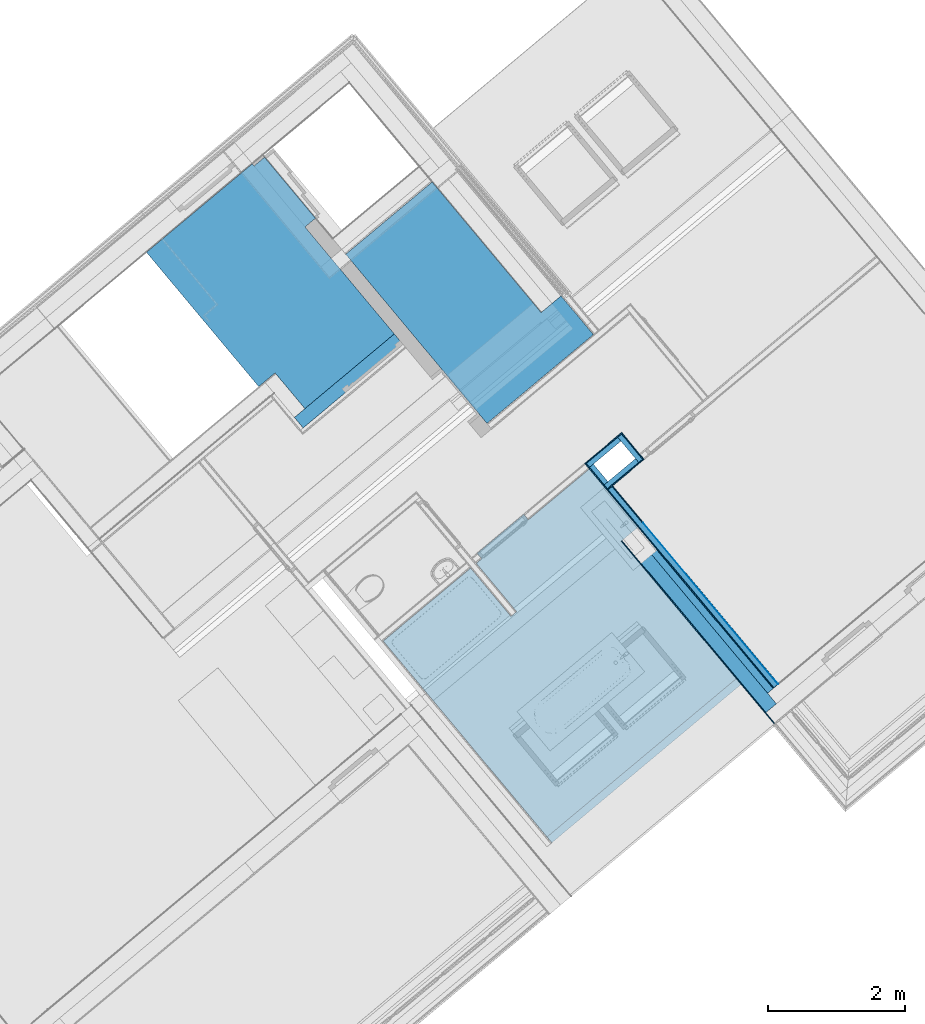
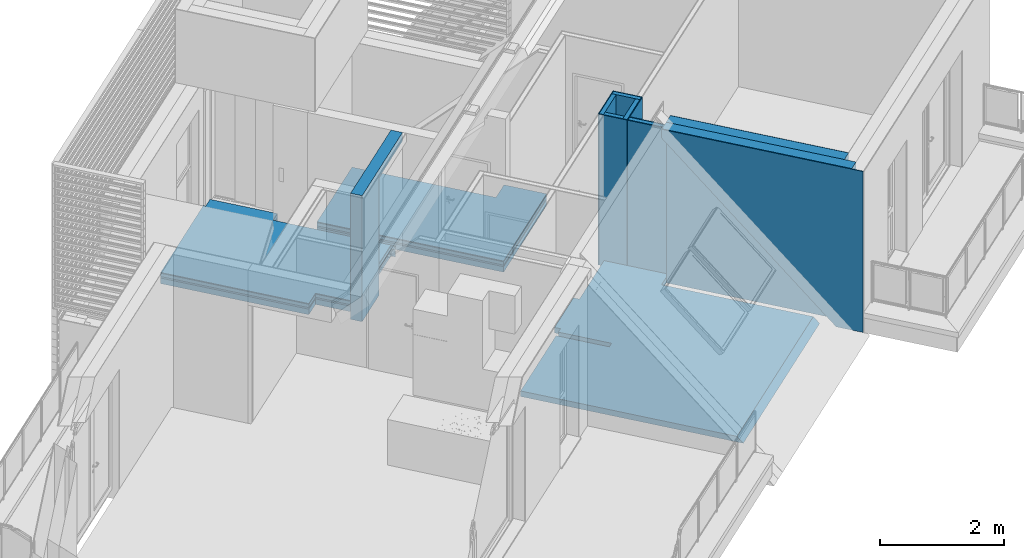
# One storey, part 25 of 47: 25 building element parts, 1 opening, 10 elements without a shape of their own.
"""IFC4 building model written with IfcOpenShell, lengths in metres."""

from ifc_helpers import new_model, entity, si_unit, converted_unit, derived_unit, direction, frame, origin_with_axes, place, context, subcontext, project, spatial, polygons, material, type_object, element, aggregate, save


model = new_model("IFC4")

# Units and contexts
model_context = context("Model", 3, precision=1e-05, world=origin_with_axes(), true_north=direction((0.0, 1.0)))
body_context = subcontext(model_context, "Body", "Model", "MODEL_VIEW")
ifc_project = project(units=[si_unit("LENGTHUNIT", "METRE"), si_unit("AREAUNIT", "SQUARE_METRE"), si_unit("VOLUMEUNIT", "CUBIC_METRE"), converted_unit("PLANEANGLEUNIT", "DEGREE", entity("IfcPlaneAngleMeasure", 0.0174532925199), si_unit("PLANEANGLEUNIT", "RADIAN"), dimensions=[0, 0, 0, 0, 0, 0, 0]), converted_unit("TIMEUNIT", "Year", entity("IfcTimeMeasure", 31556926.0), si_unit("TIMEUNIT", "SECOND"), dimensions=[0, 0, 1, 0, 0, 0, 0]), si_unit("MASSUNIT", "GRAM", prefix="KILO"), si_unit("THERMODYNAMICTEMPERATUREUNIT", "DEGREE_CELSIUS"), si_unit("LUMINOUSINTENSITYUNIT", "LUMEN"), si_unit("ENERGYUNIT", "JOULE", prefix="MEGA"), derived_unit("THERMALCONDUCTANCEUNIT", [(si_unit("POWERUNIT", "WATT"), 1), (si_unit("LENGTHUNIT", "METRE"), -1), (si_unit("THERMODYNAMICTEMPERATUREUNIT", "KELVIN"), -1)]), derived_unit("SPECIFICHEATCAPACITYUNIT", [(si_unit("ENERGYUNIT", "JOULE"), 1), (si_unit("MASSUNIT", "GRAM", prefix="KILO"), -1), (si_unit("THERMODYNAMICTEMPERATUREUNIT", "KELVIN"), -1)]), derived_unit("MASSDENSITYUNIT", [(si_unit("MASSUNIT", "GRAM", prefix="KILO"), 1), (si_unit("VOLUMEUNIT", "CUBIC_METRE"), -1)])], contexts=[model_context])

# Site, building, storey
site_placement = place(None, frame((-0.00153261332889, -0.00661245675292, 0.0), z_axis=(0.0, 0.0, 1.0), x_axis=(1.0, 0.0, 0.0)))
site = spatial("IfcSite", under=ifc_project, at=site_placement, Name="Site", CompositionType="ELEMENT")
building_placement = place(site_placement, origin_with_axes())
building = spatial("IfcBuilding", under=site, at=building_placement, Name="Building", CompositionType="ELEMENT")
storey_placement = place(building_placement, frame((0.0, 0.0, 8.66), z_axis=(0.0, 0.0, 1.0), x_axis=(1.0, 0.0, 0.0)))
storey = spatial("IfcBuildingStorey", under=building, at=storey_placement, Name="DG2", CompositionType="ELEMENT", Elevation=8.66)

# Wall, opening, building element part
wall_type_1 = type_object("IfcWallType", Name="LB 6,5 cm einfach Vorsatzschale + STB 265", PredefinedType="NOTDEFINED")
wall_1_placement = place(storey_placement, frame((2.2585224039, 23.4000388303, 0.0), z_axis=(0.0, 0.0, 1.0), x_axis=(-0.76736580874, -0.641209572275, 0.0)))
wall_1 = element("IfcWall", 1, at=wall_1_placement, inside=storey, type_object=wall_type_1, Name="Wand-003", PredefinedType="NOTDEFINED")
opening_placement = place(wall_1_placement, frame((0.54999999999, 0.0, 0.22), z_axis=(0.0, 0.0, 1.0), x_axis=(1.0, 0.0, 0.0)))
element("IfcOpeningElement", 2, at=opening_placement, cuts=wall_1, Name="Tür-001", context=body_context, identifier="Reference", shape_type="Tessellation", body=[
    polygons([(0.55, 0.125, 2.1), (-0.55, 0.125, 2.1), (-0.55, -0.968041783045, 2.1), (0.55, -0.968041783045, 2.1), (0.55, 1.23304178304, 2.1), (-0.55, 1.23304178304, 2.1), (-0.55, 0.125, -0.22), (-0.55, -0.968041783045, -0.22), (0.55, -0.968041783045, -0.22), (0.55, 0.125, -0.22), (0.55, 1.23304178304, -0.22), (-0.55, 1.23304178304, -0.22)], [[[1, 2, 3, 4]], [[2, 1, 5, 6]], [[2, 7, 8, 3]], [[3, 8, 9, 4]], [[10, 1, 4, 9]], [[1, 10, 11, 5]], [[5, 11, 12, 6]], [[7, 2, 6, 12]], [[7, 10, 9, 8]], [[10, 7, 12, 11]]], closed=True),
])
ifc_material_1 = material(Name="Stahlbeton Wand")
building_element_part_1_placement = place(wall_1_placement, origin_with_axes())
building_element_part_1 = element("IfcBuildingElementPart", 3, at=building_element_part_1_placement, material=ifc_material_1, Name="Stahlbeton Wand", PredefinedType="NOTDEFINED", context=body_context, shape_type="Tessellation", body=[
    polygons([(1.09999999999, 0.2, 0.0), (1.09999999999, 0.2, 2.32), (0.0, 0.2, 2.32), (0.0, 0.2, 2.49), (1.90036309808, 0.2, 2.49), (1.90036309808, 0.2, 0.0), (1.09999999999, 0.125, 0.0), (1.09999999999, 0.125, 2.32), (0.0, 0.125, 2.32), (0.0, 0.0, 2.32), (0.0, 0.0, 2.49), (1.90036309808, 0.0, 2.49), (1.90036309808, 0.0, 0.0), (1.09999999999, 0.0, 0.0), (1.09999999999, 0.0, 2.32)], [[[1, 2, 3, 4, 5, 6]], [[2, 1, 7, 8]], [[9, 3, 2, 8]], [[3, 9, 10, 11, 4]], [[5, 4, 11, 12]], [[12, 13, 6, 5]], [[7, 1, 6, 13, 14]], [[8, 7, 14, 15]], [[9, 8, 15, 10]], [[12, 11, 10, 15, 14, 13]]], closed=True),
])
aggregate(wall_1, [building_element_part_1])

# Wall, building element parts
wall_type_2 = type_object("IfcWallType", Name="IW LB 01 Leichtbautrennwand einfach 10,5 cm 105", PredefinedType="NOTDEFINED")
wall_2_placement = place(storey_placement, frame((8.13330736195, 17.9749689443, 0.0), z_axis=(0.0, 0.0, 1.0), x_axis=(-0.642089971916, 0.766629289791, 0.0)))
wall_2 = element("IfcWall", 4, at=wall_2_placement, inside=storey, type_object=wall_type_2, Name="Wand-012", PredefinedType="NOTDEFINED")
ifc_material_2 = material(Name="Gipskarton")
building_element_part_2_placement = place(wall_2_placement, origin_with_axes())
building_element_part_2 = element("IfcBuildingElementPart", 5, at=building_element_part_2_placement, material=ifc_material_2, Name="Gipskarton", PredefinedType="NOTDEFINED", context=body_context, shape_type="Tessellation", body=[
    polygons([(4.1877152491, 0.105, 0.0), (4.1876980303, 0.09, 0.0), (0.420044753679, 0.09, 0.0), (0.420052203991, 0.105, 0.0), (4.1877152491, 0.105, 2.98), (4.1876980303, 0.09, 2.98), (0.420044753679, 0.09, 2.98), (0.420052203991, 0.105, 2.98)], [[[1, 2, 3, 4]], [[2, 1, 5, 6]], [[2, 6, 7, 3]], [[8, 4, 3, 7]], [[5, 1, 4, 8]], [[6, 5, 8, 7]]], closed=True),
])
ifc_material_3 = material(Name="Mineralwolle weich")
building_element_part_3_placement = place(wall_2_placement, origin_with_axes())
building_element_part_3 = element("IfcBuildingElementPart", 6, at=building_element_part_3_placement, material=ifc_material_3, Name="Mineralwolle weich", PredefinedType="NOTDEFINED", context=body_context, shape_type="Tessellation", body=[
    polygons([(4.1876980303, 0.09, 0.0), (4.18761193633, 0.015, 0.0), (0.420007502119, 0.015, 0.0), (0.420044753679, 0.09, 0.0), (4.1876980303, 0.09, 2.98), (4.18761193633, 0.015, 2.98), (0.420007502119, 0.015, 2.98), (0.420044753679, 0.09, 2.98)], [[[1, 2, 3, 4]], [[2, 1, 5, 6]], [[2, 6, 7, 3]], [[8, 4, 3, 7]], [[5, 1, 4, 8]], [[6, 5, 8, 7]]], closed=True),
])
building_element_part_4_placement = place(wall_2_placement, origin_with_axes())
building_element_part_4 = element("IfcBuildingElementPart", 7, at=building_element_part_4_placement, material=ifc_material_2, Name="Gipskarton", PredefinedType="NOTDEFINED", context=body_context, shape_type="Tessellation", body=[
    polygons([(4.18761193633, 0.015, 0.0), (4.18759471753, 0.0, 0.0), (0.420000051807, 0.0, 0.0), (0.420007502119, 0.015, 0.0), (4.18761193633, 0.015, 2.98), (4.18759471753, 0.0, 2.98), (0.420000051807, 0.0, 2.98), (0.420007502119, 0.015, 2.98)], [[[1, 2, 3, 4]], [[2, 1, 5, 6]], [[2, 6, 7, 3]], [[8, 4, 3, 7]], [[5, 1, 4, 8]], [[6, 5, 8, 7]]], closed=True),
])
aggregate(wall_2, [building_element_part_2, building_element_part_3, building_element_part_4])

wall_type_3 = type_object("IfcWallType", Name="AW EG 420", PredefinedType="NOTDEFINED")
wall_3_placement = place(storey_placement, frame((8.12825261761, 17.9707396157, 0.0), z_axis=(0.0, 0.0, 1.0), x_axis=(-0.641709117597, 0.766948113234, 0.0)))
wall_3 = element("IfcWall", 8, at=wall_3_placement, inside=storey, type_object=wall_type_3, Name="Wand-002", PredefinedType="NOTDEFINED")
ifc_material_4 = material(Name="Zementputz")
building_element_part_5_placement = place(wall_3_placement, origin_with_axes())
building_element_part_5 = element("IfcBuildingElementPart", 9, at=building_element_part_5_placement, material=ifc_material_4, Name="Zementputz", PredefinedType="NOTDEFINED", context=body_context, shape_type="Tessellation", body=[
    polygons([(0.479130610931, 0.42, 0.0), (0.479129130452, 0.405, 0.0), (0.015, 0.405, 0.0), (0.015, 0.42, 0.0), (3.48674085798, 0.405, 3.00761171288), (3.48674085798, 0.42, 3.0076102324), (3.48674085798, 0.405, 3.18), (0.015, 0.405, 3.18), (0.015, 0.42, 3.18), (3.48674085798, 0.42, 3.18)], [[[1, 2, 3, 4]], [[5, 2, 1, 6]], [[2, 5, 7, 8, 3]], [[3, 8, 9, 4]], [[6, 1, 4, 9, 10]], [[5, 6, 10, 7]], [[8, 7, 10, 9]]], closed=True),
])
ifc_material_5 = material(Name="EPS 1")
building_element_part_6_placement = place(wall_3_placement, origin_with_axes())
building_element_part_6 = element("IfcBuildingElementPart", 10, at=building_element_part_6_placement, material=ifc_material_5, Name="EPS 1", PredefinedType="NOTDEFINED", context=body_context, shape_type="Tessellation", body=[
    polygons([(0.479129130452, 0.405, 0.0), (0.479109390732, 0.205, 0.0), (0.215, 0.205, 0.0), (0.215, 0.405, 0.0), (3.48674085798, 0.205, 3.0076314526), (3.48674085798, 0.405, 3.00761171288), (3.48674085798, 0.205, 3.18), (0.215, 0.205, 3.18), (0.215, 0.405, 3.18), (3.48674085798, 0.405, 3.18)], [[[1, 2, 3, 4]], [[5, 2, 1, 6]], [[2, 5, 7, 8, 3]], [[3, 8, 9, 4]], [[6, 1, 4, 9, 10]], [[5, 6, 10, 7]], [[8, 7, 10, 9]]], closed=True),
])
building_element_part_7_placement = place(wall_3_placement, origin_with_axes())
building_element_part_7 = element("IfcBuildingElementPart", 11, at=building_element_part_7_placement, material=ifc_material_1, Name="Stahlbeton Wand", PredefinedType="NOTDEFINED", context=body_context, shape_type="Tessellation", body=[
    polygons([(0.479109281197, 0.199813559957, 0.0), (3.48674085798, 0.198685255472, 0.0), (3.48674085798, 0.005, 0.0), (0.415, 0.005, 0.0), (0.415, 0.205, 0.0), (0.479109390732, 0.205, 0.0), (3.48674085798, 0.198685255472, 3.00763167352), (3.48674085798, 0.205, 3.0076314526), (3.48674085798, 0.205, 3.18), (3.48674085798, 0.005, 3.18), (0.415, 0.005, 3.18), (0.415, 0.205, 3.18)], [[[1, 2, 3, 4, 5, 6]], [[2, 1, 7]], [[7, 8, 9, 10, 3, 2]], [[4, 3, 10, 11]], [[4, 11, 12, 5]], [[8, 6, 5, 12, 9]], [[1, 6, 8, 7]], [[11, 10, 9, 12]]], closed=True),
])
building_element_part_8_placement = place(wall_3_placement, origin_with_axes())
building_element_part_8 = element("IfcBuildingElementPart", 12, at=building_element_part_8_placement, material=ifc_material_4, Name="Zementputz", PredefinedType="NOTDEFINED", context=body_context, shape_type="Tessellation", body=[
    polygons([(0.42, 0.0, 3.18), (3.48674085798, 0.0, 3.18), (3.48674085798, 0.005, 3.18), (0.42, 0.005, 3.18), (0.42, 0.0, 0.0), (3.48674085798, 0.0, 0.0), (3.48674085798, 0.005, 0.0), (0.42, 0.005, 0.0)], [[[1, 2, 3, 4]], [[5, 6, 2, 1]], [[3, 2, 6, 7]], [[4, 3, 7, 8]], [[5, 1, 4, 8]], [[8, 7, 6, 5]]], closed=True),
])
aggregate(wall_3, [building_element_part_5, building_element_part_6, building_element_part_7, building_element_part_8])

wall_type_4 = type_object("IfcWallType", Name="LB 9,0 cm einfache Vorsatzschale  90", PredefinedType="NOTDEFINED")
wall_4_placement = place(storey_placement, frame((5.09288115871, 21.4423412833, 0.0), z_axis=(0.0, 0.0, 1.0), x_axis=(0.767365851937, 0.641209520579, 0.0)))
wall_4 = element("IfcWall", 13, at=wall_4_placement, inside=storey, type_object=wall_type_4, Name="Wand-006", PredefinedType="NOTDEFINED")
building_element_part_9_placement = place(wall_4_placement, origin_with_axes())
building_element_part_9 = element("IfcBuildingElementPart", 14, at=building_element_part_9_placement, material=ifc_material_2, Name="Gipskarton", PredefinedType="NOTDEFINED", context=body_context, shape_type="Tessellation", body=[
    polygons([(0.70434608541, 0.0899970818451, 0.0), (0.70434608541, 0.075, 0.0), (0.704316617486, 0.075, 0.0), (0.70434608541, 0.0899970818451, 2.98), (0.70434608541, 0.075, 2.98), (0.704316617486, 0.075, 2.98)], [[[1, 2, 3]], [[4, 5, 2, 1]], [[2, 5, 6, 3]], [[1, 3, 6, 4]], [[5, 4, 6]]], closed=True),
    polygons([(0.689316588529, 0.075, 0.0), (0.0, 0.075, 0.0), (0.0, 0.09, 0.0), (0.689346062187, 0.09, 0.0), (0.689316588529, 0.075, 2.98), (0.0, 0.075, 2.98), (0.0, 0.09, 2.98), (0.689346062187, 0.09, 2.98)], [[[1, 2, 3, 4]], [[5, 6, 2, 1]], [[3, 2, 6, 7]], [[4, 3, 7, 8]], [[4, 8, 5, 1]], [[8, 7, 6, 5]]], closed=True),
])
building_element_part_10_placement = place(wall_4_placement, origin_with_axes())
building_element_part_10 = element("IfcBuildingElementPart", 15, at=building_element_part_10_placement, material=ifc_material_3, Name="Mineralwolle weich", PredefinedType="NOTDEFINED", context=body_context, shape_type="Tessellation", body=[
    polygons([(0.70416926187, 0.0, 0.22), (0.70434608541, 0.0, 0.22), (0.70434608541, 0.0, 2.98), (0.704169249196, 0.0, 2.98), (0.70434608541, 0.075, 0.22), (0.704316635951, 0.0749999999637, 0.22), (0.70434608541, 0.075, 2.98), (0.704316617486, 0.075, 2.98)], [[[1, 2, 3, 4]], [[5, 2, 1, 6]], [[2, 5, 7, 3]], [[4, 3, 7, 8]], [[6, 1, 4, 8]], [[5, 6, 8, 7]]], closed=True),
    polygons([(0.614316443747, 0.075, 0.0), (0.614169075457, 0.0, 0.0), (0.015, 0.0, 0.0), (0.015, 0.075, 0.0), (0.614316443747, 0.075, 2.98), (0.614169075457, 0.0, 2.98), (0.015, 0.0, 2.98), (0.015, 0.075, 2.98)], [[[1, 2, 3, 4]], [[2, 1, 5, 6]], [[2, 6, 7, 3]], [[8, 4, 3, 7]], [[5, 1, 4, 8]], [[6, 5, 8, 7]]], closed=True),
])
aggregate(wall_4, [building_element_part_9, building_element_part_10])

wall_5_placement = place(storey_placement, frame((5.50650780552, 21.9054398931, 0.0), z_axis=(0.0, 0.0, 1.0), x_axis=(0.639700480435, -0.768624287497, 0.0)))
wall_5 = element("IfcWall", 16, at=wall_5_placement, inside=storey, type_object=wall_type_4, Name="Wand-006", PredefinedType="NOTDEFINED")
building_element_part_11_placement = place(wall_5_placement, origin_with_axes())
building_element_part_11 = element("IfcBuildingElementPart", 17, at=building_element_part_11_placement, material=ifc_material_2, Name="Gipskarton", PredefinedType="NOTDEFINED", context=body_context, shape_type="Tessellation", body=[
    polygons([(0.512699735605, 0.075, 0.0), (0.0, 0.075, 0.0), (0.0, 0.09, 0.0), (0.512670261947, 0.09, 0.0), (0.512699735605, 0.075, 2.98), (0.0, 0.075, 2.98), (0.0, 0.09, 2.98), (0.512670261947, 0.09, 2.98)], [[[1, 2, 3, 4]], [[5, 6, 2, 1]], [[3, 2, 6, 7]], [[4, 3, 7, 8]], [[4, 8, 5, 1]], [[8, 7, 6, 5]]], closed=True),
])
building_element_part_12_placement = place(wall_5_placement, origin_with_axes())
building_element_part_12 = element("IfcBuildingElementPart", 18, at=building_element_part_12_placement, material=ifc_material_3, Name="Mineralwolle weich", PredefinedType="NOTDEFINED", context=body_context, shape_type="Tessellation", body=[
    polygons([(0.000145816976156, 1.78492953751e-09, 0.22), (0.0, 0.0736499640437, 0.22), (0.0, 0.0736499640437, 2.98), (0.000144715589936, 0.0, 2.98), (0.0, 0.0, 0.22), (0.0, 0.0, 2.98)], [[[1, 2, 3, 4]], [[5, 2, 1]], [[2, 5, 6, 3]], [[4, 3, 6]], [[5, 1, 4, 6]]], closed=True),
    polygons([(0.497699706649, 0.075, 0.0), (0.497847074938, 0.0, 0.0), (0.0151447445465, 0.0, 0.0), (0.0149973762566, 0.075, 0.0), (0.497699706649, 0.075, 2.98), (0.497847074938, 0.0, 2.98), (0.0151447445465, 0.0, 2.98), (0.0149973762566, 0.075, 2.98)], [[[1, 2, 3, 4]], [[2, 1, 5, 6]], [[2, 6, 7, 3]], [[8, 4, 3, 7]], [[5, 1, 4, 8]], [[6, 5, 8, 7]]], closed=True),
])
aggregate(wall_5, [building_element_part_11, building_element_part_12])

wall_6_placement = place(storey_placement, frame((5.77700318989, 21.5804294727, 0.0), z_axis=(0.0, 0.0, 1.0), x_axis=(-0.767365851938, -0.641209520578, 0.0)))
wall_6 = element("IfcWall", 19, at=wall_6_placement, inside=storey, type_object=wall_type_4, Name="Wand-006", PredefinedType="NOTDEFINED")
building_element_part_13_placement = place(wall_6_placement, origin_with_axes())
building_element_part_13 = element("IfcBuildingElementPart", 20, at=building_element_part_13_placement, material=ifc_material_2, Name="Gipskarton", PredefinedType="NOTDEFINED", context=body_context, shape_type="Tessellation", body=[
    polygons([(0.613515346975, 0.075, 0.0), (-0.0748527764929, 0.075, 0.0), (-0.0748233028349, 0.09, 0.0), (0.613515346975, 0.09, 0.0), (0.613515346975, 0.075, 2.98), (-0.0748527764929, 0.075, 2.98), (-0.0748233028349, 0.09, 2.98), (0.613515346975, 0.09, 2.98)], [[[1, 2, 3, 4]], [[5, 6, 2, 1]], [[3, 2, 6, 7]], [[4, 3, 7, 8]], [[4, 8, 5, 1]], [[8, 7, 6, 5]]], closed=True),
])
building_element_part_14_placement = place(wall_6_placement, origin_with_axes())
building_element_part_14 = element("IfcBuildingElementPart", 21, at=building_element_part_14_placement, material=ifc_material_3, Name="Mineralwolle weich", PredefinedType="NOTDEFINED", context=body_context, shape_type="Tessellation", body=[
    polygons([(0.598515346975, 0.075, 0.0), (0.598515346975, 0.0, 0.0), (0.0, 0.0, 0.0), (0.000147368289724, 0.075, 0.0), (0.598515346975, 0.075, 2.98), (0.598515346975, 0.0, 2.98), (0.0, 0.0, 2.98), (0.000147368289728, 0.075, 2.98)], [[[1, 2, 3, 4]], [[2, 1, 5, 6]], [[2, 6, 7, 3]], [[8, 4, 3, 7]], [[5, 1, 4, 8]], [[6, 5, 8, 7]]], closed=True),
])
aggregate(wall_6, [building_element_part_13, building_element_part_14])

wall_7_placement = place(storey_placement, frame((5.37527538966, 21.244746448, 0.0), z_axis=(0.0, 0.0, 1.0), x_axis=(-0.641209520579, 0.767365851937, 0.0)))
wall_7 = element("IfcWall", 22, at=wall_7_placement, inside=storey, type_object=wall_type_4, Name="Wand-007", PredefinedType="NOTDEFINED")
building_element_part_15_placement = place(wall_7_placement, origin_with_axes())
building_element_part_15 = element("IfcBuildingElementPart", 23, at=building_element_part_15_placement, material=ifc_material_2, Name="Gipskarton", PredefinedType="NOTDEFINED", context=body_context, shape_type="Tessellation", body=[
    polygons([(0.407701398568, 0.075, 0.0), (-0.0749999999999, 0.075, 0.0), (-0.0749999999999, 0.09, 0.0), (0.407701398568, 0.09, 0.0), (0.407701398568, 0.075, 2.98), (-0.0749999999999, 0.075, 2.98), (-0.0749999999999, 0.09, 2.98), (0.407701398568, 0.09, 2.98)], [[[1, 2, 3, 4]], [[5, 6, 2, 1]], [[3, 2, 6, 7]], [[4, 3, 7, 8]], [[4, 8, 5, 1]], [[8, 7, 6, 5]]], closed=True),
])
building_element_part_16_placement = place(wall_7_placement, origin_with_axes())
building_element_part_16 = element("IfcBuildingElementPart", 24, at=building_element_part_16_placement, material=ifc_material_3, Name="Mineralwolle weich", PredefinedType="NOTDEFINED", context=body_context, shape_type="Tessellation", body=[
    polygons([(0.332701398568, 0.075, 0.0), (0.332701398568, 0.0, 0.0), (0.0, 0.0, 0.0), (0.0, 0.075, 0.0), (0.332701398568, 0.075, 2.98), (0.332701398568, 0.0, 2.98), (0.0, 0.0, 2.98), (0.0, 0.075, 2.98)], [[[1, 2, 3, 4]], [[2, 1, 5, 6]], [[2, 6, 7, 3]], [[8, 4, 3, 7]], [[5, 1, 4, 8]], [[6, 5, 8, 7]]], closed=True),
])
aggregate(wall_7, [building_element_part_15, building_element_part_16])

# Covering, building element part
covering_type = type_object("IfcCoveringType", Name="DE 01 Decke Wohnung/Wohnung Fließen 220", PredefinedType="NOTDEFINED")
covering_1_placement = place(storey_placement, frame((2.09467668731, 18.9197573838, 0.22), z_axis=(0.0, 0.0, 1.0), x_axis=(1.0, 0.0, 0.0)))
covering_1 = element("IfcCovering", 25, at=covering_1_placement, inside=storey, type_object=covering_type, Name="Decke-004", PredefinedType="NOTDEFINED")
ifc_material_6 = material(Name="Schüttung")
building_element_part_17_placement = place(covering_1_placement, origin_with_axes())
building_element_part_17 = element("IfcBuildingElementPart", 26, at=building_element_part_17_placement, material=ifc_material_6, Name="Schüttung", PredefinedType="NOTDEFINED", context=body_context, shape_type="Tessellation", body=[
    polygons([(5.15190423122, -0.549776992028, -0.11), (5.22249223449, -0.634141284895, -0.22), (3.47398432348, 1.4556137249, -0.22), (3.47398432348, 1.4556137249, -0.11), (2.46052594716, -2.94462814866, -0.22), (2.38999288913, -2.86021789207, -0.11), (-1.06147566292e-08, -8.86967299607e-09, -0.22), (1.2767194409, 1.06586618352, -0.22), (1.86547422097, 0.361291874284, -0.22), (1.94604688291, 0.428619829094, -0.22), (1.35732264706, 1.13315751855, -0.22), (1.4371327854, 1.19978686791, -0.22), (1.36984145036, 1.28038999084, -0.22), (2.05304928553, 1.85076447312, -0.22), (2.12034062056, 1.77016126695, -0.22), (3.00782256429, 2.51107347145, -0.22), (3.25962648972, 2.20972776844, -0.22), (3.26924463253, 2.19821728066, -0.22), (3.71929949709, 1.66087009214, -0.22), (3.71929949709, 1.66087009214, -0.11), (3.26924463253, 2.19821728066, -0.11), (3.25962648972, 2.20972776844, -0.11), (3.00782256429, 2.51107347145, -0.11), (2.12034062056, 1.77016126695, -0.11), (2.05304928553, 1.85076447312, -0.11), (1.36984145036, 1.28038999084, -0.11), (1.4371327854, 1.19978686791, -0.11), (1.35732264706, 1.13315751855, -0.11), (1.94604688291, 0.428619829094, -0.11), (1.86547422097, 0.361291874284, -0.11), (1.2767194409, 1.06586618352, -0.11), (-1.06147566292e-08, -8.86967299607e-09, -0.11)], [[[1, 2, 3, 4]], [[5, 2, 1, 6]], [[2, 5, 7, 8, 9, 10, 11, 12, 13, 14, 15, 16, 17, 18, 19, 3]], [[19, 20, 4, 3]], [[6, 1, 4, 20, 21, 22, 23, 24, 25, 26, 27, 28, 29, 30, 31, 32]], [[5, 6, 32, 7]], [[32, 31, 8, 7]], [[31, 30, 9, 8]], [[30, 29, 10, 9]], [[29, 28, 11, 10]], [[28, 27, 12, 11]], [[27, 26, 13, 12]], [[26, 25, 14, 13]], [[25, 24, 15, 14]], [[24, 23, 16, 15]], [[16, 23, 22, 17]], [[18, 17, 22, 21]], [[20, 19, 18, 21]]], closed=True),
])
aggregate(covering_1, [building_element_part_17])

# Covering, building element parts
covering_2_placement = place(storey_placement, frame((-1.35822754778, 24.5916309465, 0.22), z_axis=(0.0, 0.0, 1.0), x_axis=(1.0, 0.0, 0.0)))
covering_2 = element("IfcCovering", 27, at=covering_2_placement, inside=storey, type_object=covering_type, Name="Decke-004", PredefinedType="NOTDEFINED")
ifc_material_7 = material(Name="Fliesen")
building_element_part_18_placement = place(covering_2_placement, origin_with_axes())
building_element_part_18 = element("IfcBuildingElementPart", 28, at=building_element_part_18_placement, material=ifc_material_7, Name="Fliesen", PredefinedType="NOTDEFINED", context=body_context, shape_type="Tessellation", body=[
    polygons([(1.63852832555, -1.96090415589, 0.0), (1.63852832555, -1.96090415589, -0.015), (1.87728250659, -1.76169470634, -0.015), (1.87728250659, -1.76169470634, 0.0), (0.766532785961, -0.917441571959, -0.015), (0.766532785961, -0.917441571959, 0.0), (0.0, 0.0, -0.015), (1.54454118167, 1.29061581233, -0.015), (1.57084861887, 1.25910399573, -0.015), (1.57096747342, 1.25920321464, -0.015), (1.72438262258, 1.38727306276, -0.015), (1.72450147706, 1.38737228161, -0.015), (2.46788206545, 0.496875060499, -0.015), (2.46778989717, 0.496798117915, -0.015), (2.31434806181, 0.368705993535, -0.015), (2.31425973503, 0.36862444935, -0.015), (3.66827330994, -1.25325255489, -0.015), (3.61674995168, -1.19159211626, -0.015), (2.77270684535, -1.89687310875, -0.015), (2.77243411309, -1.89654646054, -0.015), (2.31152766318, -2.28137645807, -0.015), (2.31152766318, -2.28137645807, 0.0), (0.0, 0.0, 0.0), (2.77243411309, -1.89654646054, 0.0), (2.77270684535, -1.89687310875, 0.0), (3.61674995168, -1.19159211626, 0.0), (3.66827330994, -1.25325255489, 0.0), (2.31425973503, 0.36862444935, 0.0), (2.31434806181, 0.368705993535, 0.0), (2.46778989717, 0.496798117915, 0.0), (2.46788206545, 0.496875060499, 0.0), (1.72450147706, 1.38737228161, 0.0), (1.72438262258, 1.38727306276, 0.0), (1.57096747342, 1.25920321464, 0.0), (1.57084861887, 1.25910399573, 0.0), (1.54454118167, 1.29061581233, 0.0)], [[[1, 2, 3, 4]], [[5, 2, 1, 6]], [[2, 5, 7, 8, 9, 10, 11, 12, 13, 14, 15, 16, 17, 18, 19, 20, 21, 3]], [[3, 21, 22, 4]], [[23, 6, 1, 4, 22, 24, 25, 26, 27, 28, 29, 30, 31, 32, 33, 34, 35, 36]], [[5, 6, 23, 7]], [[7, 23, 36, 8]], [[35, 9, 8, 36]], [[10, 9, 35, 34]], [[10, 34, 33, 11]], [[11, 33, 32, 12]], [[13, 12, 32, 31]], [[30, 14, 13, 31]], [[29, 15, 14, 30]], [[16, 15, 29, 28]], [[17, 16, 28, 27]], [[18, 17, 27, 26]], [[25, 19, 18, 26]], [[24, 20, 19, 25]], [[22, 21, 20, 24]]], closed=True),
])
ifc_material_8 = material(Name="Estrich")
building_element_part_19_placement = place(covering_2_placement, origin_with_axes())
building_element_part_19 = element("IfcBuildingElementPart", 29, at=building_element_part_19_placement, material=ifc_material_8, Name="Estrich", PredefinedType="NOTDEFINED", context=body_context, shape_type="Tessellation", body=[
    polygons([(1.63852832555, -1.96090415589, -0.015), (1.63852832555, -1.96090415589, -0.08), (1.87728250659, -1.76169470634, -0.08), (1.87728250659, -1.76169470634, -0.015), (0.766532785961, -0.917441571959, -0.015), (0.766532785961, -0.917441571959, -0.08), (0.0, 0.0, -0.08), (1.54454118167, 1.29061581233, -0.08), (1.57084861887, 1.25910399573, -0.08), (1.57096747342, 1.25920321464, -0.08), (1.72438262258, 1.38727306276, -0.08), (1.72450147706, 1.38737228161, -0.08), (2.46788206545, 0.496875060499, -0.08), (2.46778989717, 0.496798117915, -0.08), (2.31434806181, 0.368705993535, -0.08), (2.31425973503, 0.36862444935, -0.08), (3.66827330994, -1.25325255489, -0.08), (3.61674995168, -1.19159211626, -0.08), (2.77270684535, -1.89687310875, -0.08), (2.77243411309, -1.89654646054, -0.08), (2.31152766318, -2.28137645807, -0.08), (2.31152766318, -2.28137645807, -0.015), (2.77243411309, -1.89654646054, -0.015), (2.77270684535, -1.89687310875, -0.015), (3.61674995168, -1.19159211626, -0.015), (3.66827330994, -1.25325255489, -0.015), (2.31425973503, 0.36862444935, -0.015), (2.31434806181, 0.368705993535, -0.015), (2.46778989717, 0.496798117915, -0.015), (2.46788206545, 0.496875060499, -0.015), (1.72450147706, 1.38737228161, -0.015), (1.72438262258, 1.38727306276, -0.015), (1.57096747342, 1.25920321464, -0.015), (1.57084861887, 1.25910399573, -0.015), (1.54454118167, 1.29061581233, -0.015), (0.0, 0.0, -0.015)], [[[1, 2, 3, 4]], [[5, 6, 2, 1]], [[2, 6, 7, 8, 9, 10, 11, 12, 13, 14, 15, 16, 17, 18, 19, 20, 21, 3]], [[3, 21, 22, 4]], [[5, 1, 4, 22, 23, 24, 25, 26, 27, 28, 29, 30, 31, 32, 33, 34, 35, 36]], [[36, 7, 6, 5]], [[7, 36, 35, 8]], [[34, 9, 8, 35]], [[10, 9, 34, 33]], [[10, 33, 32, 11]], [[11, 32, 31, 12]], [[13, 12, 31, 30]], [[29, 14, 13, 30]], [[28, 15, 14, 29]], [[16, 15, 28, 27]], [[17, 16, 27, 26]], [[18, 17, 26, 25]], [[24, 19, 18, 25]], [[23, 20, 19, 24]], [[22, 21, 20, 23]]], closed=True),
])
ifc_material_9 = material(Name="Trittschalldämmung")
building_element_part_20_placement = place(covering_2_placement, origin_with_axes())
building_element_part_20 = element("IfcBuildingElementPart", 30, at=building_element_part_20_placement, material=ifc_material_9, Name="Trittschalldämmung", PredefinedType="NOTDEFINED", context=body_context, shape_type="Tessellation", body=[
    polygons([(1.63852832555, -1.96090415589, -0.08), (1.63852832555, -1.96090415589, -0.11), (1.87728250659, -1.76169470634, -0.11), (1.87728250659, -1.76169470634, -0.08), (0.766532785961, -0.917441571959, -0.08), (0.766532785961, -0.917441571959, -0.11), (0.0, 0.0, -0.11), (1.54454118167, 1.29061581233, -0.11), (1.57084861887, 1.25910399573, -0.11), (1.57096747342, 1.25920321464, -0.11), (1.72438262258, 1.38727306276, -0.11), (1.72450147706, 1.38737228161, -0.11), (2.46788206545, 0.496875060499, -0.11), (2.46778989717, 0.496798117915, -0.11), (2.31434806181, 0.368705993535, -0.11), (2.31425973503, 0.36862444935, -0.11), (3.66827330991, -1.25325255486, -0.11), (3.61674995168, -1.19159211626, -0.11), (2.77270684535, -1.89687310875, -0.11), (2.77243411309, -1.89654646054, -0.11), (2.31152766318, -2.28137645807, -0.11), (2.31152766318, -2.28137645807, -0.08), (2.77243411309, -1.89654646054, -0.08), (2.77270684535, -1.89687310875, -0.08), (3.61674995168, -1.19159211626, -0.08), (3.66827330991, -1.25325255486, -0.08), (2.31425973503, 0.36862444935, -0.08), (2.31434806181, 0.368705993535, -0.08), (2.46778989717, 0.496798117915, -0.08), (2.46788206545, 0.496875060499, -0.08), (1.72450147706, 1.38737228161, -0.08), (1.72438262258, 1.38727306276, -0.08), (1.57096747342, 1.25920321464, -0.08), (1.57084861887, 1.25910399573, -0.08), (1.54454118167, 1.29061581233, -0.08), (0.0, 0.0, -0.08)], [[[1, 2, 3, 4]], [[5, 6, 2, 1]], [[2, 6, 7, 8, 9, 10, 11, 12, 13, 14, 15, 16, 17, 18, 19, 20, 21, 3]], [[3, 21, 22, 4]], [[5, 1, 4, 22, 23, 24, 25, 26, 27, 28, 29, 30, 31, 32, 33, 34, 35, 36]], [[36, 7, 6, 5]], [[7, 36, 35, 8]], [[34, 9, 8, 35]], [[10, 9, 34, 33]], [[10, 33, 32, 11]], [[11, 32, 31, 12]], [[13, 12, 31, 30]], [[29, 14, 13, 30]], [[28, 15, 14, 29]], [[16, 15, 28, 27]], [[17, 16, 27, 26]], [[18, 17, 26, 25]], [[24, 19, 18, 25]], [[23, 20, 19, 24]], [[22, 21, 20, 23]]], closed=True),
])
building_element_part_21_placement = place(covering_2_placement, origin_with_axes())
building_element_part_21 = element("IfcBuildingElementPart", 31, at=building_element_part_21_placement, material=ifc_material_6, Name="Schüttung", PredefinedType="NOTDEFINED", context=body_context, shape_type="Tessellation", body=[
    polygons([(1.63852832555, -1.96090415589, -0.11), (1.63852832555, -1.96090415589, -0.22), (1.87728250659, -1.76169470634, -0.22), (1.87728250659, -1.76169470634, -0.11), (0.766532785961, -0.917441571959, -0.22), (0.766532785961, -0.917441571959, -0.11), (0.0, 0.0, -0.22), (1.54454118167, 1.29061581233, -0.22), (1.57084861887, 1.25910399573, -0.22), (1.57096747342, 1.25920321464, -0.22), (1.72438262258, 1.38727306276, -0.22), (1.72450147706, 1.38737228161, -0.22), (2.46788206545, 0.496875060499, -0.22), (2.46778989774, 0.496798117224, -0.22), (2.31434806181, 0.368705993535, -0.22), (2.31425973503, 0.36862444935, -0.22), (3.6682733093, -1.25325255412, -0.22), (3.61674995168, -1.19159211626, -0.22), (2.77270684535, -1.89687310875, -0.22), (2.77243411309, -1.89654646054, -0.22), (2.31152766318, -2.28137645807, -0.22), (2.31152766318, -2.28137645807, -0.11), (2.77243411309, -1.89654646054, -0.11), (2.77270684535, -1.89687310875, -0.11), (3.61674995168, -1.19159211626, -0.11), (3.66827330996, -1.25325255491, -0.11), (2.31425973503, 0.36862444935, -0.11), (2.31434806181, 0.368705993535, -0.11), (2.46778989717, 0.496798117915, -0.11), (2.46788206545, 0.496875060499, -0.11), (1.72450147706, 1.38737228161, -0.11), (1.72438262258, 1.38727306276, -0.11), (1.57096747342, 1.25920321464, -0.11), (1.57084861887, 1.25910399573, -0.11), (1.54454118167, 1.29061581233, -0.11), (0.0, 0.0, -0.11)], [[[1, 2, 3, 4]], [[5, 2, 1, 6]], [[5, 7, 8, 9, 10, 11, 12, 13, 14, 15, 16, 17, 18, 19, 20, 21, 3, 2]], [[3, 21, 22, 4]], [[6, 1, 4, 22, 23, 24, 25, 26, 27, 28, 29, 30, 31, 32, 33, 34, 35, 36]], [[7, 5, 6, 36]], [[8, 7, 36, 35]], [[34, 9, 8, 35]], [[10, 9, 34, 33]], [[10, 33, 32, 11]], [[11, 32, 31, 12]], [[13, 12, 31, 30]], [[29, 14, 13, 30]], [[15, 14, 29, 28]], [[27, 16, 15, 28]], [[17, 16, 27, 26]], [[18, 17, 26, 25]], [[24, 19, 18, 25]], [[23, 20, 19, 24]], [[22, 21, 20, 23]]], closed=True),
])
aggregate(covering_2, [building_element_part_18, building_element_part_19, building_element_part_20, building_element_part_21])

covering_3_placement = place(storey_placement, frame((3.60991174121, 22.0934424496, 0.22), z_axis=(0.0, 0.0, 1.0), x_axis=(1.0, 0.0, 0.0)))
covering_3 = element("IfcCovering", 32, at=covering_3_placement, inside=storey, type_object=covering_type, Name="Decke-004", PredefinedType="NOTDEFINED")
building_element_part_22_placement = place(covering_3_placement, origin_with_axes())
building_element_part_22 = element("IfcBuildingElementPart", 33, at=building_element_part_22_placement, material=ifc_material_7, Name="Fliesen", PredefinedType="NOTDEFINED", context=body_context, shape_type="Tessellation", body=[
    polygons([(1.08078187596, 1.86196508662, -0.015), (1.08078187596, 1.86196508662, 0.0), (1.55327238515, 1.29666046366, 0.0), (1.55327238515, 1.29666046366, -0.015), (0.791211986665, 1.62021476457, -0.015), (0.791211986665, 1.62021476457, 0.0), (-0.798520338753, 3.52440504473, 0.0), (-2.06053153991, 2.46983312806, 0.0), (-2.06105052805, 2.47045420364, 0.0), (-2.06187539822, 2.46976545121, 0.0), (0.0, 0.0, 0.0), (0.0, 0.0, -0.015), (-2.06187539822, 2.46976545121, -0.015), (-2.06105052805, 2.47045420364, -0.015), (-2.06053153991, 2.46983312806, -0.015), (-0.798520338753, 3.52440504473, -0.015)], [[[1, 2, 3, 4]], [[2, 1, 5, 6]], [[2, 6, 7, 8, 9, 10, 11, 3]], [[12, 4, 3, 11]], [[1, 4, 12, 13, 14, 15, 16, 5]], [[7, 6, 5, 16]], [[7, 16, 15, 8]], [[9, 8, 15, 14]], [[9, 14, 13, 10]], [[13, 12, 11, 10]]], closed=True),
])
building_element_part_23_placement = place(covering_3_placement, origin_with_axes())
building_element_part_23 = element("IfcBuildingElementPart", 34, at=building_element_part_23_placement, material=ifc_material_8, Name="Estrich", PredefinedType="NOTDEFINED", context=body_context, shape_type="Tessellation", body=[
    polygons([(1.08078187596, 1.86196508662, -0.08), (1.08078187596, 1.86196508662, -0.015), (1.55327238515, 1.29666046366, -0.015), (1.55327238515, 1.29666046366, -0.08), (0.791211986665, 1.62021476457, -0.08), (0.791211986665, 1.62021476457, -0.015), (-0.798520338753, 3.52440504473, -0.015), (-2.06053153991, 2.46983312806, -0.015), (-2.06105052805, 2.47045420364, -0.015), (-2.06187539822, 2.46976545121, -0.015), (0.0, 0.0, -0.015), (0.0, 0.0, -0.08), (-2.06187539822, 2.46976545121, -0.08), (-2.06105052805, 2.47045420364, -0.08), (-2.06053153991, 2.46983312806, -0.08), (-0.798520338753, 3.52440504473, -0.08)], [[[1, 2, 3, 4]], [[2, 1, 5, 6]], [[2, 6, 7, 8, 9, 10, 11, 3]], [[12, 4, 3, 11]], [[1, 4, 12, 13, 14, 15, 16, 5]], [[7, 6, 5, 16]], [[7, 16, 15, 8]], [[9, 8, 15, 14]], [[9, 14, 13, 10]], [[13, 12, 11, 10]]], closed=True),
])
building_element_part_24_placement = place(covering_3_placement, origin_with_axes())
building_element_part_24 = element("IfcBuildingElementPart", 35, at=building_element_part_24_placement, material=ifc_material_9, Name="Trittschalldämmung", PredefinedType="NOTDEFINED", context=body_context, shape_type="Tessellation", body=[
    polygons([(1.08078187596, 1.86196508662, -0.11), (1.08078187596, 1.86196508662, -0.08), (1.55327238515, 1.29666046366, -0.08), (1.55327238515, 1.29666046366, -0.11), (0.791211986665, 1.62021476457, -0.11), (0.791211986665, 1.62021476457, -0.08), (-0.798520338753, 3.52440504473, -0.08), (-2.06053153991, 2.46983312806, -0.08), (-2.06105052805, 2.47045420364, -0.08), (-2.06187539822, 2.46976545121, -0.08), (0.0, 0.0, -0.08), (0.0, 0.0, -0.11), (-2.06187539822, 2.46976545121, -0.11), (-2.06105052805, 2.47045420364, -0.11), (-2.06053153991, 2.46983312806, -0.11), (-0.798520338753, 3.52440504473, -0.11)], [[[1, 2, 3, 4]], [[2, 1, 5, 6]], [[2, 6, 7, 8, 9, 10, 11, 3]], [[12, 4, 3, 11]], [[1, 4, 12, 13, 14, 15, 16, 5]], [[7, 6, 5, 16]], [[7, 16, 15, 8]], [[9, 8, 15, 14]], [[9, 14, 13, 10]], [[13, 12, 11, 10]]], closed=True),
])
building_element_part_25_placement = place(covering_3_placement, origin_with_axes())
building_element_part_25 = element("IfcBuildingElementPart", 36, at=building_element_part_25_placement, material=ifc_material_6, Name="Schüttung", PredefinedType="NOTDEFINED", context=body_context, shape_type="Tessellation", body=[
    polygons([(1.08078187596, 1.86196508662, -0.22), (1.08078187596, 1.86196508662, -0.11), (1.55327238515, 1.29666046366, -0.11), (1.55327238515, 1.29666046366, -0.22), (0.791211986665, 1.62021476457, -0.22), (0.791211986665, 1.62021476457, -0.11), (-0.798520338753, 3.52440504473, -0.11), (-2.06053153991, 2.46983312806, -0.11), (-2.06105052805, 2.47045420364, -0.11), (-2.06187539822, 2.46976545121, -0.11), (0.0, 0.0, -0.11), (0.0, 0.0, -0.22), (-2.06187539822, 2.46976545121, -0.22), (-2.06105052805, 2.47045420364, -0.22), (-2.06053153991, 2.46983312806, -0.22), (-0.798520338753, 3.52440504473, -0.22)], [[[1, 2, 3, 4]], [[2, 1, 5, 6]], [[2, 6, 7, 8, 9, 10, 11, 3]], [[11, 12, 4, 3]], [[1, 4, 12, 13, 14, 15, 16, 5]], [[7, 6, 5, 16]], [[7, 16, 15, 8]], [[9, 8, 15, 14]], [[9, 14, 13, 10]], [[10, 13, 12, 11]]], closed=True),
])
aggregate(covering_3, [building_element_part_22, building_element_part_23, building_element_part_24, building_element_part_25])

save(model, "model.ifc")
